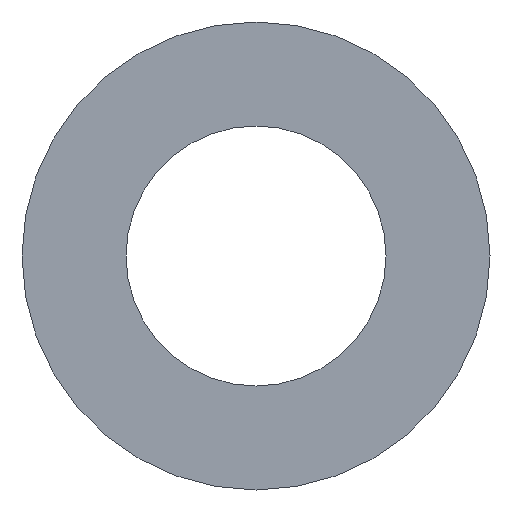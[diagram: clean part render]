
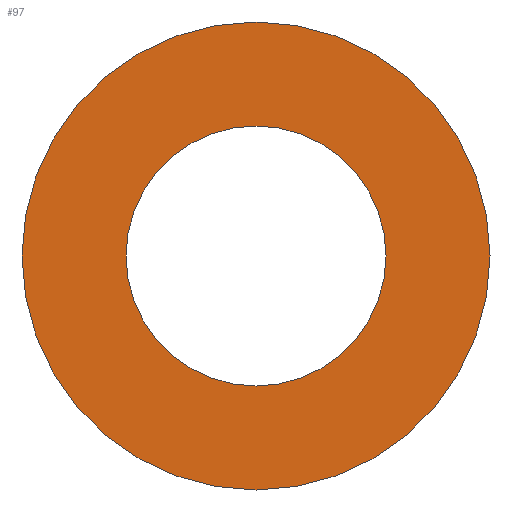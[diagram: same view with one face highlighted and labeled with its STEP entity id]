
A CAD part, front view. The second image highlights one B-rep face of the part: STEP entity #97.
In plain terms, the highlighted planar face has unit normal (0, -1, 0).
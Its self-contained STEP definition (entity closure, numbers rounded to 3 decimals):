
#21=FACE_BOUND('',#40,.T.);
#29=FACE_OUTER_BOUND('',#39,.T.);
#39=EDGE_LOOP('',(#79));
#40=EDGE_LOOP('',(#80));
#53=CIRCLE('',#109,25.);
#54=CIRCLE('',#111,45.);
#61=VERTEX_POINT('',#162);
#62=VERTEX_POINT('',#165);
#69=EDGE_CURVE('',#61,#61,#53,.T.);
#70=EDGE_CURVE('',#62,#62,#54,.T.);
#79=ORIENTED_EDGE('',*,*,#70,.F.);
#80=ORIENTED_EDGE('',*,*,#69,.T.);
#92=PLANE('',#110);
#97=ADVANCED_FACE('',(#29,#21),#92,.T.);
#109=AXIS2_PLACEMENT_3D('',#163,#131,#132);
#110=AXIS2_PLACEMENT_3D('',#164,#133,#134);
#111=AXIS2_PLACEMENT_3D('',#166,#135,#136);
#131=DIRECTION('center_axis',(0.,1.,0.));
#132=DIRECTION('ref_axis',(1.,0.,0.));
#133=DIRECTION('center_axis',(0.,-1.,0.));
#134=DIRECTION('ref_axis',(0.,0.,-1.));
#135=DIRECTION('center_axis',(0.,1.,0.));
#136=DIRECTION('ref_axis',(1.,0.,0.));
#162=CARTESIAN_POINT('',(-25.,0.,0.));
#163=CARTESIAN_POINT('Origin',(0.,0.,0.));
#164=CARTESIAN_POINT('Origin',(-45.,0.,0.));
#165=CARTESIAN_POINT('',(-45.,0.,0.));
#166=CARTESIAN_POINT('Origin',(0.,0.,
0.));
